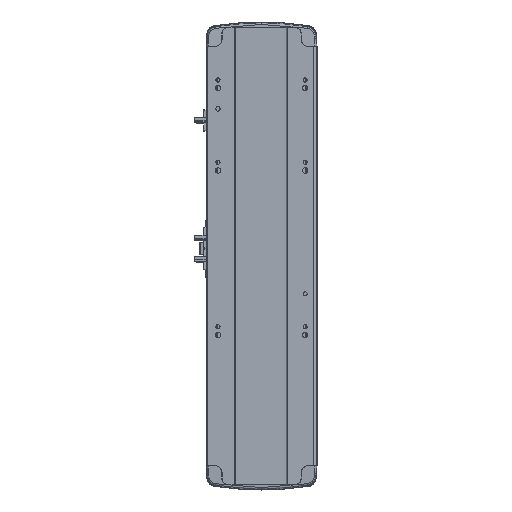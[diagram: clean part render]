
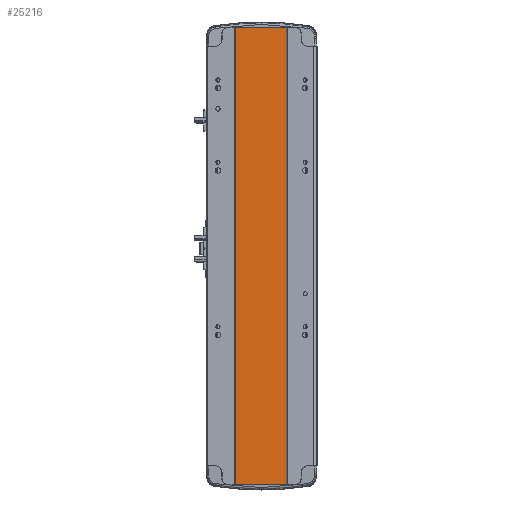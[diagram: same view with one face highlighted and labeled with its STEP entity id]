
A CAD part, front view. The second image highlights one B-rep face of the part: STEP entity #25216.
In plain terms, the highlighted planar face has unit normal (0, -1, 0).
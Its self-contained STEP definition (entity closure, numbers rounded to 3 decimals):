
#6 = CARTESIAN_POINT ( 'NONE',  ( -32., 1., 556. ) ) ;
#732 = AXIS2_PLACEMENT_3D ( 'NONE', #36473, #32925, #18934 ) ;
#3089 = EDGE_CURVE ( 'NONE', #16454, #8652, #30221, .T. ) ;
#3110 = FACE_OUTER_BOUND ( 'NONE', #14363, .T. ) ;
#3828 = CARTESIAN_POINT ( 'NONE',  ( -32., 1., 0. ) ) ;
#5070 = VECTOR ( 'NONE', #7210, 1000. ) ;
#6864 = VERTEX_POINT ( 'NONE', #19096 ) ;
#7210 = DIRECTION ( 'NONE',  ( 1., 0., 0. ) ) ;
#7281 = ORIENTED_EDGE ( 'NONE', *, *, #11839, .T. ) ;
#8028 = DIRECTION ( 'NONE',  ( 1., 0., 0. ) ) ;
#8652 = VERTEX_POINT ( 'NONE', #3828 ) ;
#8747 = EDGE_CURVE ( 'NONE', #16454, #6864, #29880, .T. ) ;
#8759 = EDGE_CURVE ( 'NONE', #6864, #35293, #35924, .T. ) ;
#10355 = VECTOR ( 'NONE', #42062, 1000. ) ;
#11839 = EDGE_CURVE ( 'NONE', #8652, #35293, #34096, .T. ) ;
#14363 = EDGE_LOOP ( 'NONE', ( #7281, #14716, #20003, #20117 ) ) ;
#14716 = ORIENTED_EDGE ( 'NONE', *, *, #8759, .F. ) ;
#15178 = CARTESIAN_POINT ( 'NONE',  ( 30., 1., 0. ) ) ;
#15331 = VECTOR ( 'NONE', #8028, 1000. ) ;
#16454 = VERTEX_POINT ( 'NONE', #45174 ) ;
#18934 = DIRECTION ( 'NONE',  ( -1., 0., 0. ) ) ;
#19001 = CARTESIAN_POINT ( 'NONE',  ( -32., 1., 0. ) ) ;
#19096 = CARTESIAN_POINT ( 'NONE',  ( 30., 1., 556. ) ) ;
#20003 = ORIENTED_EDGE ( 'NONE', *, *, #8747, .F. ) ;
#20117 = ORIENTED_EDGE ( 'NONE', *, *, #3089, .T. ) ;
#22753 = PLANE ( 'NONE',  #732 ) ;
#24803 = CARTESIAN_POINT ( 'NONE',  ( -32., 1., 556. ) ) ;
#25216 = ADVANCED_FACE ( 'NONE', ( #3110 ), #22753, .F. ) ;
#29880 = LINE ( 'NONE', #24803, #5070 ) ;
#30221 = LINE ( 'NONE', #6, #10355 ) ;
#32794 = DIRECTION ( 'NONE',  ( 0., 0., -1. ) ) ;
#32925 = DIRECTION ( 'NONE',  ( 0., 1., 0. ) ) ;
#34096 = LINE ( 'NONE', #19001, #15331 ) ;
#35293 = VERTEX_POINT ( 'NONE', #15178 ) ;
#35435 = CARTESIAN_POINT ( 'NONE',  ( 30., 1., 556. ) ) ;
#35924 = LINE ( 'NONE', #35435, #36522 ) ;
#36473 = CARTESIAN_POINT ( 'NONE',  ( -32., 1., 556. ) ) ;
#36522 = VECTOR ( 'NONE', #32794, 1000. ) ;
#42062 = DIRECTION ( 'NONE',  ( 0., 0., -1. ) ) ;
#45174 = CARTESIAN_POINT ( 'NONE',  ( -32., 1., 556. ) ) ;
